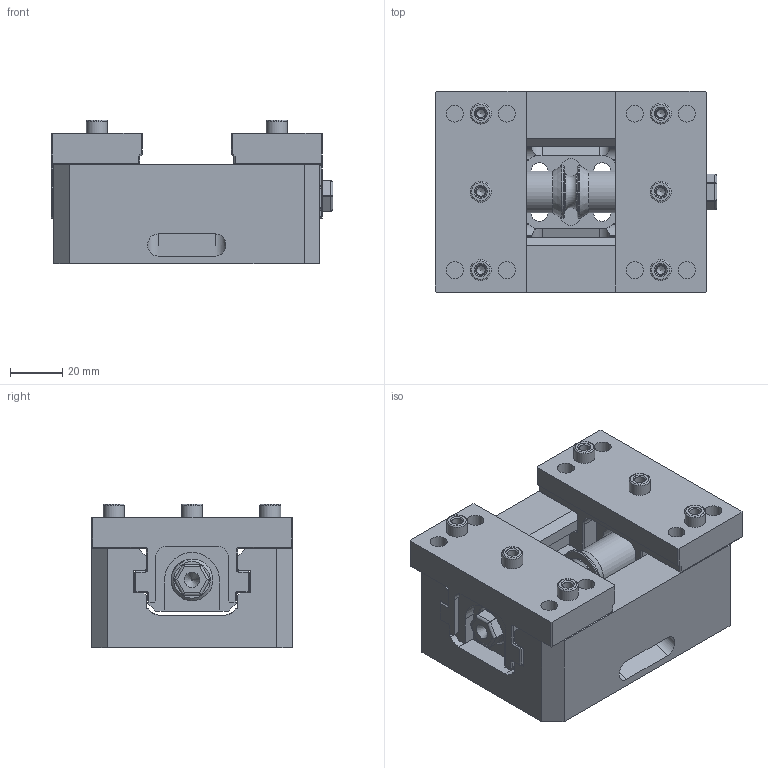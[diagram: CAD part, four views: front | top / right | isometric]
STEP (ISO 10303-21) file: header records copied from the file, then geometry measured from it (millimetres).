
FILE_DESCRIPTION(/* description */ (''),/* implementation_level */ '2;1');
FILE_NAME(/* name */ '',/* time_stamp */ '2020-08-31T10:28:03+08:00',/* author */ (''),/* organization */ (''),/* preprocessor_version */ 'ST-DEVELOPER v11',/* originating_system */ 'SIEMENS PLM Software NX 7.0',/* authorisation */ '');
FILE_SCHEMA (('CONFIG_CONTROL_DESIGN'));
Length unit declared in the file: millimetre
Products named in the file (1): AdmiB760wpdk
Bounding box: 108 x 77 x 55 mm (x, y, z)
Volume: 284848.6 mm3; surface area: 78980.9 mm2
Topology: 10 solids, 10 shells, 639 faces, 1577 edges, 1000 vertices
Faces by surface type: plane 396, cylinder 144, cone 54, bspline 16, torus 15, extrusion 14
Full cylindrical faces by diameter (mm): 3.3 x6, 4 x6, 4.5 x2, 5 x2, 6.5 x13, 6.7 x4, 8 x18, 10.5 x8, 11 x5, 12 x4, 14 x2, 16 x2, 20 x2
Entity records: 21502 total; most frequent: CARTESIAN_POINT 6993, DIRECTION 2898, ORIENTED_EDGE 2802, EDGE_CURVE 1401, VECTOR 998, LINE 984, VERTEX_POINT 963, AXIS2_PLACEMENT_3D 950
